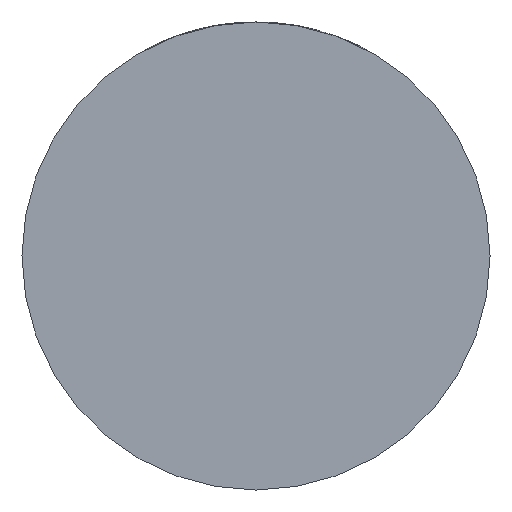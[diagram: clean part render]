
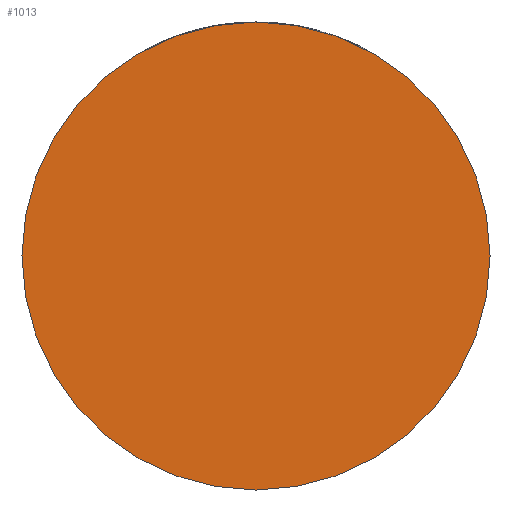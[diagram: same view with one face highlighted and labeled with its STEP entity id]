
A CAD part, front view. The second image highlights one B-rep face of the part: STEP entity #1013.
In plain terms, the highlighted planar face has unit normal (0, -1, 0).
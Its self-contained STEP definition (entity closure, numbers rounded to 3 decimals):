
#68 = CIRCLE ( 'NONE', #2065, 39. ) ;
#148 = PLANE ( 'NONE',  #2453 ) ;
#169 = EDGE_LOOP ( 'NONE', ( #1293, #4242 ) ) ;
#280 = DIRECTION ( 'NONE',  ( 1., 0., 0. ) ) ;
#678 = DIRECTION ( 'NONE',  ( 0., -1., 0. ) ) ;
#870 = VERTEX_POINT ( 'NONE', #1055 ) ;
#1013 = ADVANCED_FACE ( 'NONE', ( #1831 ), #148, .T. ) ;
#1039 = CIRCLE ( 'NONE', #1839, 39. ) ;
#1055 = CARTESIAN_POINT ( 'NONE',  ( -39., -39., 0. ) ) ;
#1151 = DIRECTION ( 'NONE',  ( 1., 0., 0. ) ) ;
#1243 = DIRECTION ( 'NONE',  ( 1., 0., 0. ) ) ;
#1293 = ORIENTED_EDGE ( 'NONE', *, *, #4177, .T. ) ;
#1831 = FACE_OUTER_BOUND ( 'NONE', #169, .T. ) ;
#1839 = AXIS2_PLACEMENT_3D ( 'NONE', #2424, #678, #280 ) ;
#1898 = DIRECTION ( 'NONE',  ( 0., -1., 0. ) ) ;
#1922 = DIRECTION ( 'NONE',  ( 0., -1., 0. ) ) ;
#2065 = AXIS2_PLACEMENT_3D ( 'NONE', #3685, #1922, #1243 ) ;
#2147 = VERTEX_POINT ( 'NONE', #3410 ) ;
#2424 = CARTESIAN_POINT ( 'NONE',  ( 0., -39., 0. ) ) ;
#2453 = AXIS2_PLACEMENT_3D ( 'NONE', #4296, #1898, #1151 ) ;
#3410 = CARTESIAN_POINT ( 'NONE',  ( 39., -39., 0. ) ) ;
#3685 = CARTESIAN_POINT ( 'NONE',  ( 0., -39., 0. ) ) ;
#4177 = EDGE_CURVE ( 'NONE', #870, #2147, #68, .T. ) ;
#4242 = ORIENTED_EDGE ( 'NONE', *, *, #4546, .T. ) ;
#4296 = CARTESIAN_POINT ( 'NONE',  ( 0., -39., 0. ) ) ;
#4546 = EDGE_CURVE ( 'NONE', #2147, #870, #1039, .T. ) ;
